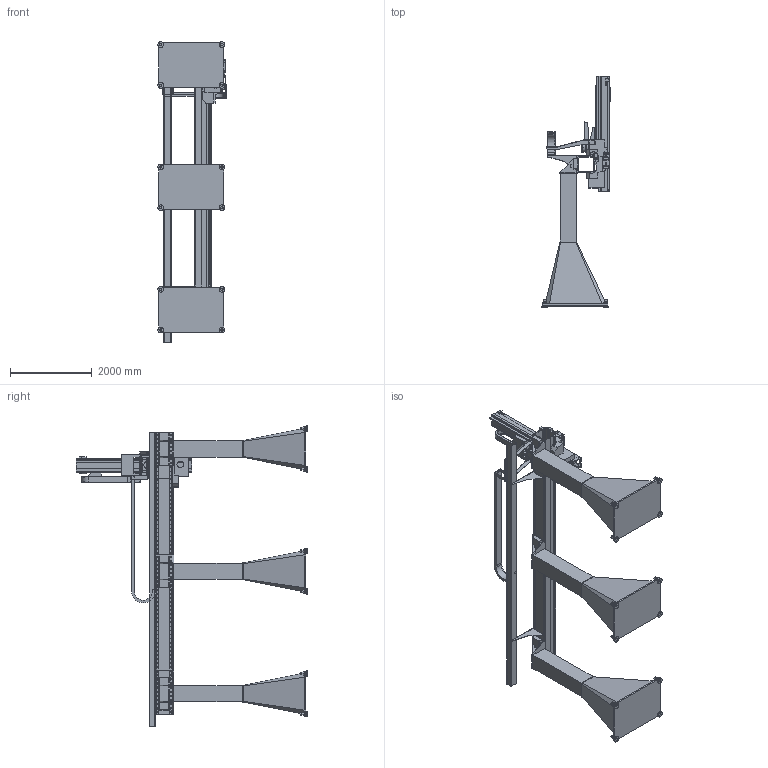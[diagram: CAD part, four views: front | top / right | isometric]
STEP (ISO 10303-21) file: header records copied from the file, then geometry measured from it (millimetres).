
FILE_DESCRIPTION (( 'STEP AP203' ), '1' );
FILE_NAME ('10-00000597-001.STEP', '2019-11-29T15:02:01', ( '' ), ( '' ), 'SwSTEP 2.0', 'SolidWorks 2017', '' );
FILE_SCHEMA (( 'CONFIG_CONTROL_DESIGN' ));
Length unit declared in the file: millimetre
Products named in the file (17): 10-00000597-014_.; 10-00000597-015_links; 10-00000597-003_NEUER ARTIKEL___links; 10-00000600-025_NEUER ARTIKEL; 10-00000597-010_NEUER ARTIKEL; 10-00000597-002_.; 10-00000597-001; 10-00000597-004_.__prt; 10-00000597-003_NEUER ARTIKEL___rechts; 10-00000597-013_.; 10-00000597-013_NEUER ARTIKEL; 10-00000597-005_.; 10-00000517-024_.; 10-00000597-018_.__asm; 10-00000600-016_NEUER ARTIKEL; 10-00000597-009_Katalog_Anschlag_links; 10-00000600-026_NEUER ARTIKEL
Assembly tree (19 placements, depth 3):
  10-00000597-001
    10-00000597-002_.
    10-00000597-003_NEUER ARTIKEL___links
    10-00000597-003_NEUER ARTIKEL___rechts
    10-00000597-004_.__prt  x2
    10-00000597-005_.
    10-00000600-025_NEUER ARTIKEL  x3
      10-00000600-016_NEUER ARTIKEL
      10-00000600-026_NEUER ARTIKEL
    10-00000597-009_Katalog_Anschlag_links
      10-00000597-010_NEUER ARTIKEL
      10-00000597-015_links
      10-00000517-024_.
      10-00000597-018_.__asm
    10-00000597-013_.
      10-00000597-013_NEUER ARTIKEL
      10-00000597-014_.
Bounding box: 1671.2 x 5665 x 7370 mm (x, y, z)
Volume: 4944475739.5 mm3; surface area: 89263908.1 mm2
Topology: 32 solids, 47 shells, 3008 faces, 8175 edges, 5283 vertices
Faces by surface type: plane 1702, cylinder 1028, cone 258, bspline 16, torus 4
Entity records: 79843 total; most frequent: CARTESIAN_POINT 19268, ORIENTED_EDGE 12482, DIRECTION 11996, EDGE_CURVE 6245, AXIS2_PLACEMENT_3D 4115, VERTEX_POINT 4059, VECTOR 3766, LINE 3766
